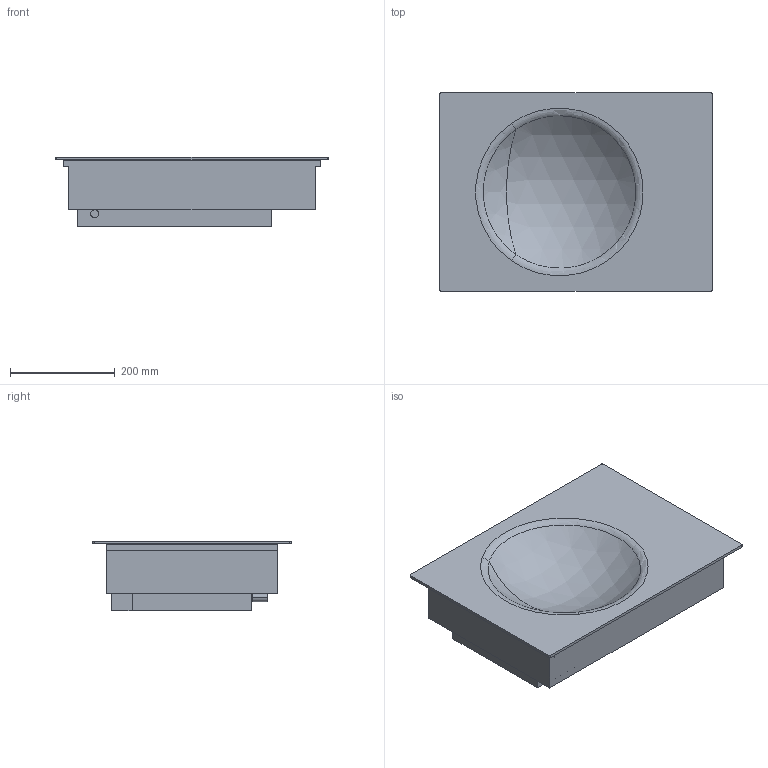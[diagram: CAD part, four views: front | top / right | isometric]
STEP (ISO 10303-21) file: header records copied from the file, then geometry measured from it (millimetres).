
FILE_DESCRIPTION(('CATIA V5 STEP','CAx-IF Rec.Pracs.--- Model Styling and Organization---1.2---2011-12-15'),'2;1');
FILE_NAME('d:\opendxmdata\jobs\0171455\0003_001_out\Simp_CS7611.stp','2017-12-12T09:29:29+00:00',('none'),('none'),'Version 5-6 Release 2012','CATIA V5 STEP AP214','none');
FILE_SCHEMA(('AUTOMOTIVE_DESIGN { 1 0 10303 214 1 1 1 1 }'));
Length unit declared in the file: millimetre
Products named in the file (1): Simp_CS7611
Bounding box: 520 x 378 x 132.9 mm (x, y, z)
Volume: 7312072.6 mm3; surface area: 1066541.7 mm2
Topology: 3 solids, 3 shells, 44 faces, 100 edges, 67 vertices
Faces by surface type: plane 32, cylinder 6, sphere 4, torus 2
Entity records: 1421 total; most frequent: CARTESIAN_POINT 378, ORIENTED_EDGE 200, DIRECTION 176, EDGE_CURVE 100, VECTOR 78, LINE 78, VERTEX_POINT 66, AXIS2_PLACEMENT_3D 59
